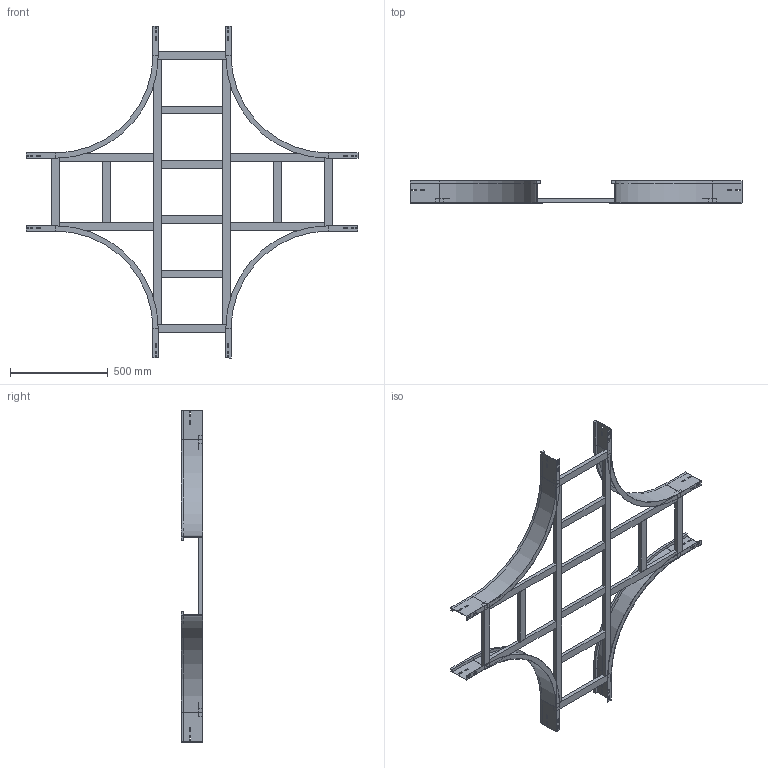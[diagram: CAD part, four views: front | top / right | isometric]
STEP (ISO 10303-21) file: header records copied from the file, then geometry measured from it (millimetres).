
FILE_DESCRIPTION (( 'STEP AP214' ), '1' );
FILE_NAME ('17B5J400.step', '2025-02-21T15:56:08', ( '' ), ( '' ), 'SwSTEP 2.0', 'SolidWorks 2023', '' );
FILE_SCHEMA (( 'AUTOMOTIVE_DESIGN' ));
Length unit declared in the file: millimetre
Products named in the file (7): 17B5J400; TRAVERSINO_COPPIA_400; TRAVERSINO_400; LONGH.INTERNO 90°_H112.5_R500; TRAVERSINO_INTERMEDIO_R500+400; TRAVERSINO_LONG._R500+400; TRAVERSINO_VERT_R500
Assembly tree (20 placements, depth 2):
  17B5J400
    LONGH.INTERNO 90°_H112.5_R500  x4
    TRAVERSINO_400  x4
    TRAVERSINO_LONG._R500+400  x2
    TRAVERSINO_INTERMEDIO_R500+400  x4
    TRAVERSINO_VERT_R500  x4
    TRAVERSINO_COPPIA_400  x2
Bounding box: 1700 x 112.5 x 1700 mm (x, y, z)
Volume: 8612900.5 mm3; surface area: 2365792.6 mm2
Topology: 20 solids, 20 shells, 328 faces, 800 edges, 512 vertices
Faces by surface type: plane 312, cylinder 16
Entity records: 2860 total; most frequent: CARTESIAN_POINT 459, DIRECTION 442, ORIENTED_EDGE 424, EDGE_CURVE 212, LINE 204, VECTOR 204, VERTEX_POINT 136, AXIS2_PLACEMENT_3D 119
